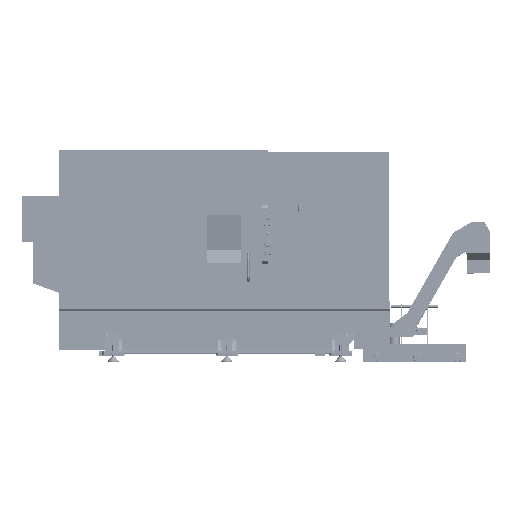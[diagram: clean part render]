
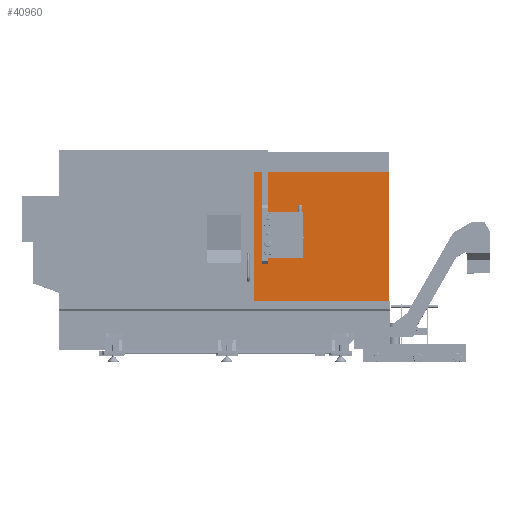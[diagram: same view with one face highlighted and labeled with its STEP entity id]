
A CAD part, top view. The second image highlights one B-rep face of the part: STEP entity #40960.
In plain terms, the highlighted planar face has unit normal (0, 0, 1).
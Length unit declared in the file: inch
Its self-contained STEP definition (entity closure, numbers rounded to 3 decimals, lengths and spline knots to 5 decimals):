
#1720 = VERTEX_POINT ( 'NONE', #320001 ) ;
#1760 = VECTOR ( 'NONE', #127277, 39.37008 ) ;
#1952 = CARTESIAN_POINT ( 'NONE',  ( 47.2722, 44.31642, 21.87425 ) ) ;
#2916 = DIRECTION ( 'NONE',  ( 1., 0., 0. ) ) ;
#3891 = DIRECTION ( 'NONE',  ( -1., 0., 0. ) ) ;
#4523 = CARTESIAN_POINT ( 'NONE',  ( 43.7722, 44.31642, 21.87425 ) ) ;
#5286 = ORIENTED_EDGE ( 'NONE', *, *, #62899, .T. ) ;
#5856 = VERTEX_POINT ( 'NONE', #79487 ) ;
#10688 = EDGE_CURVE ( 'NONE', #387123, #193821, #311858, .T. ) ;
#11501 = VECTOR ( 'NONE', #206090, 39.37008 ) ;
#12183 = LINE ( 'NONE', #235658, #73752 ) ;
#18871 = ORIENTED_EDGE ( 'NONE', *, *, #143229, .F. ) ;
#19500 = EDGE_CURVE ( 'NONE', #193821, #1720, #52866, .T. ) ;
#20643 = CARTESIAN_POINT ( 'NONE',  ( 105.0712, 44.31642, 21.87425 ) ) ;
#29787 = DIRECTION ( 'NONE',  ( 0., 1., 0. ) ) ;
#32834 = ORIENTED_EDGE ( 'NONE', *, *, #10688, .T. ) ;
#32938 = CARTESIAN_POINT ( 'NONE',  ( -5.84425, 44.31642, 21.87425 ) ) ;
#40960 = ADVANCED_FACE ( 'NONE', ( #193286, #383529, #96089 ), #259447, .T. ) ;
#44428 = ORIENTED_EDGE ( 'NONE', *, *, #19500, .T. ) ;
#51493 = CARTESIAN_POINT ( 'NONE',  ( 105.0712, -14.41555, 21.87425 ) ) ;
#52866 = LINE ( 'NONE', #79860, #266451 ) ;
#55950 = ORIENTED_EDGE ( 'NONE', *, *, #312475, .F. ) ;
#62899 = EDGE_CURVE ( 'NONE', #99227, #330461, #295136, .T. ) ;
#63141 = DIRECTION ( 'NONE',  ( 1., 0., 0. ) ) ;
#65441 = VECTOR ( 'NONE', #3891, 39.37008 ) ;
#71589 = ORIENTED_EDGE ( 'NONE', *, *, #229147, .T. ) ;
#73752 = VECTOR ( 'NONE', #74344, 39.37008 ) ;
#74344 = DIRECTION ( 'NONE',  ( 0., -1., 0. ) ) ;
#75613 = LINE ( 'NONE', #365119, #211727 ) ;
#79487 = CARTESIAN_POINT ( 'NONE',  ( 47.1824, 5.15209, 21.87425 ) ) ;
#79860 = CARTESIAN_POINT ( 'NONE',  ( 47.1824, 44.31642, 21.87425 ) ) ;
#82179 = VECTOR ( 'NONE', #277228, 39.37008 ) ;
#91151 = DIRECTION ( 'NONE',  ( -1., 0., 0. ) ) ;
#91497 = CARTESIAN_POINT ( 'NONE',  ( 47.1824, 25.90209, 21.87425 ) ) ;
#92253 = VERTEX_POINT ( 'NONE', #168358 ) ;
#96089 = FACE_OUTER_BOUND ( 'NONE', #164142, .T. ) ;
#99227 = VERTEX_POINT ( 'NONE', #1952 ) ;
#101796 = CARTESIAN_POINT ( 'NONE',  ( 49.8722, 44.31642, 21.87425 ) ) ;
#103227 = DIRECTION ( 'NONE',  ( 0., -1., 0. ) ) ;
#114655 = VECTOR ( 'NONE', #103227, 39.37008 ) ;
#119464 = DIRECTION ( 'NONE',  ( -1., 0., 0. ) ) ;
#121698 = CARTESIAN_POINT ( 'NONE',  ( 49.9624, 5.15209, 21.87425 ) ) ;
#125582 = CARTESIAN_POINT ( 'NONE',  ( -5.84425, 25.90209, 21.87425 ) ) ;
#127277 = DIRECTION ( 'NONE',  ( 0., -1., 0. ) ) ;
#137840 = CARTESIAN_POINT ( 'NONE',  ( -5.84425, 44.31642, 21.87425 ) ) ;
#138137 = ORIENTED_EDGE ( 'NONE', *, *, #354109, .T. ) ;
#139366 = VERTEX_POINT ( 'NONE', #20643 ) ;
#143229 = EDGE_CURVE ( 'NONE', #139366, #342822, #12183, .T. ) ;
#143964 = ORIENTED_EDGE ( 'NONE', *, *, #201313, .T. ) ;
#146914 = LINE ( 'NONE', #304194, #82179 ) ;
#149421 = CARTESIAN_POINT ( 'NONE',  ( 49.962, 25.90209, 21.87425 ) ) ;
#149886 = VERTEX_POINT ( 'NONE', #152316 ) ;
#151544 = VERTEX_POINT ( 'NONE', #198776 ) ;
#152316 = CARTESIAN_POINT ( 'NONE',  ( 49.9624, 2.12354, 21.87425 ) ) ;
#152772 = DIRECTION ( 'NONE',  ( -1., 0., 0. ) ) ;
#153270 = VECTOR ( 'NONE', #29787, 39.37008 ) ;
#154767 = ORIENTED_EDGE ( 'NONE', *, *, #379397, .T. ) ;
#157617 = VECTOR ( 'NONE', #63141, 39.37008 ) ;
#159138 = ORIENTED_EDGE ( 'NONE', *, *, #344214, .T. ) ;
#164142 = EDGE_LOOP ( 'NONE', ( #138137, #71589, #5286, #187803, #357347, #55950, #18871 ) ) ;
#164296 = LINE ( 'NONE', #352558, #204983 ) ;
#168358 = CARTESIAN_POINT ( 'NONE',  ( 43.7722, -14.41555, 21.87425 ) ) ;
#169603 = VECTOR ( 'NONE', #214243, 39.37008 ) ;
#172709 = ORIENTED_EDGE ( 'NONE', *, *, #244229, .T. ) ;
#175853 = CARTESIAN_POINT ( 'NONE',  ( 104.0465, -14.41555, 21.87425 ) ) ;
#179672 = VECTOR ( 'NONE', #91151, 39.37008 ) ;
#180064 = EDGE_CURVE ( 'NONE', #188703, #92253, #276337, .T. ) ;
#183228 = CARTESIAN_POINT ( 'NONE',  ( -5.84425, 28.90209, 21.87425 ) ) ;
#187803 = ORIENTED_EDGE ( 'NONE', *, *, #228424, .T. ) ;
#188703 = VERTEX_POINT ( 'NONE', #175853 ) ;
#190180 = LINE ( 'NONE', #32938, #65441 ) ;
#192126 = ORIENTED_EDGE ( 'NONE', *, *, #305199, .T. ) ;
#193286 = FACE_BOUND ( 'NONE', #231171, .T. ) ;
#193821 = VERTEX_POINT ( 'NONE', #91497 ) ;
#197010 = LINE ( 'NONE', #404626, #1760 ) ;
#198776 = CARTESIAN_POINT ( 'NONE',  ( 49.962, 28.90209, 21.87425 ) ) ;
#201313 = EDGE_CURVE ( 'NONE', #5856, #276797, #75613, .T. ) ;
#204983 = VECTOR ( 'NONE', #385616, 39.37008 ) ;
#206090 = DIRECTION ( 'NONE',  ( -1., 0., 0. ) ) ;
#211727 = VECTOR ( 'NONE', #270019, 39.37008 ) ;
#214243 = DIRECTION ( 'NONE',  ( -1., 0., 0. ) ) ;
#222479 = AXIS2_PLACEMENT_3D ( 'NONE', #346422, #286459, #2916 ) ;
#228424 = EDGE_CURVE ( 'NONE', #330461, #92253, #197010, .T. ) ;
#229147 = EDGE_CURVE ( 'NONE', #255352, #99227, #249987, .T. ) ;
#231171 = EDGE_LOOP ( 'NONE', ( #44428, #192126, #159138, #32834 ) ) ;
#235658 = CARTESIAN_POINT ( 'NONE',  ( 105.0712, 0., 21.87425 ) ) ;
#244229 = EDGE_CURVE ( 'NONE', #149886, #368776, #248384, .T. ) ;
#248384 = LINE ( 'NONE', #403601, #179672 ) ;
#249987 = LINE ( 'NONE', #376107, #259960 ) ;
#255352 = VERTEX_POINT ( 'NONE', #101796 ) ;
#259447 = PLANE ( 'NONE',  #222479 ) ;
#259960 = VECTOR ( 'NONE', #152772, 39.37008 ) ;
#264598 = CARTESIAN_POINT ( 'NONE',  ( 49.9624, 44.31642, 21.87425 ) ) ;
#266451 = VECTOR ( 'NONE', #394289, 39.37008 ) ;
#270019 = DIRECTION ( 'NONE',  ( 1., 0., 0. ) ) ;
#274305 = CARTESIAN_POINT ( 'NONE',  ( -25.59673, -14.41555, 21.87425 ) ) ;
#276337 = LINE ( 'NONE', #274305, #169603 ) ;
#276797 = VERTEX_POINT ( 'NONE', #121698 ) ;
#277228 = DIRECTION ( 'NONE',  ( -1., 0., 0. ) ) ;
#280213 = LINE ( 'NONE', #307156, #153270 ) ;
#286459 = DIRECTION ( 'NONE',  ( 0., 0., 1. ) ) ;
#295136 = LINE ( 'NONE', #137840, #11501 ) ;
#299987 = EDGE_LOOP ( 'NONE', ( #143964, #309553, #172709, #154767 ) ) ;
#304194 = CARTESIAN_POINT ( 'NONE',  ( -5.84425, -14.41555, 21.87425 ) ) ;
#305199 = EDGE_CURVE ( 'NONE', #1720, #151544, #313505, .T. ) ;
#307156 = CARTESIAN_POINT ( 'NONE',  ( 47.1824, 44.31642, 21.87425 ) ) ;
#309553 = ORIENTED_EDGE ( 'NONE', *, *, #404590, .T. ) ;
#311858 = LINE ( 'NONE', #125582, #358799 ) ;
#312475 = EDGE_CURVE ( 'NONE', #342822, #188703, #146914, .T. ) ;
#313505 = LINE ( 'NONE', #183228, #157617 ) ;
#320001 = CARTESIAN_POINT ( 'NONE',  ( 47.1824, 28.90209, 21.87425 ) ) ;
#330461 = VERTEX_POINT ( 'NONE', #4523 ) ;
#330752 = LINE ( 'NONE', #264598, #114655 ) ;
#342822 = VERTEX_POINT ( 'NONE', #51493 ) ;
#344214 = EDGE_CURVE ( 'NONE', #151544, #387123, #164296, .T. ) ;
#346422 = CARTESIAN_POINT ( 'NONE',  ( -5.84425, 44.31642, 21.87425 ) ) ;
#352558 = CARTESIAN_POINT ( 'NONE',  ( 49.962, 44.31642, 21.87425 ) ) ;
#354109 = EDGE_CURVE ( 'NONE', #139366, #255352, #190180, .T. ) ;
#357347 = ORIENTED_EDGE ( 'NONE', *, *, #180064, .F. ) ;
#358799 = VECTOR ( 'NONE', #119464, 39.37008 ) ;
#365119 = CARTESIAN_POINT ( 'NONE',  ( -5.84425, 5.15209, 21.87425 ) ) ;
#368776 = VERTEX_POINT ( 'NONE', #377148 ) ;
#376107 = CARTESIAN_POINT ( 'NONE',  ( -5.84425, 44.31642, 21.87425 ) ) ;
#377148 = CARTESIAN_POINT ( 'NONE',  ( 47.1824, 2.12354, 21.87425 ) ) ;
#379397 = EDGE_CURVE ( 'NONE', #368776, #5856, #280213, .T. ) ;
#383529 = FACE_BOUND ( 'NONE', #299987, .T. ) ;
#385616 = DIRECTION ( 'NONE',  ( 0., -1., 0. ) ) ;
#387123 = VERTEX_POINT ( 'NONE', #149421 ) ;
#394289 = DIRECTION ( 'NONE',  ( 0., 1., 0. ) ) ;
#403601 = CARTESIAN_POINT ( 'NONE',  ( -5.84425, 2.12354, 21.87425 ) ) ;
#404590 = EDGE_CURVE ( 'NONE', #276797, #149886, #330752, .T. ) ;
#404626 = CARTESIAN_POINT ( 'NONE',  ( 43.7722, 44.31642, 21.87425 ) ) ;
